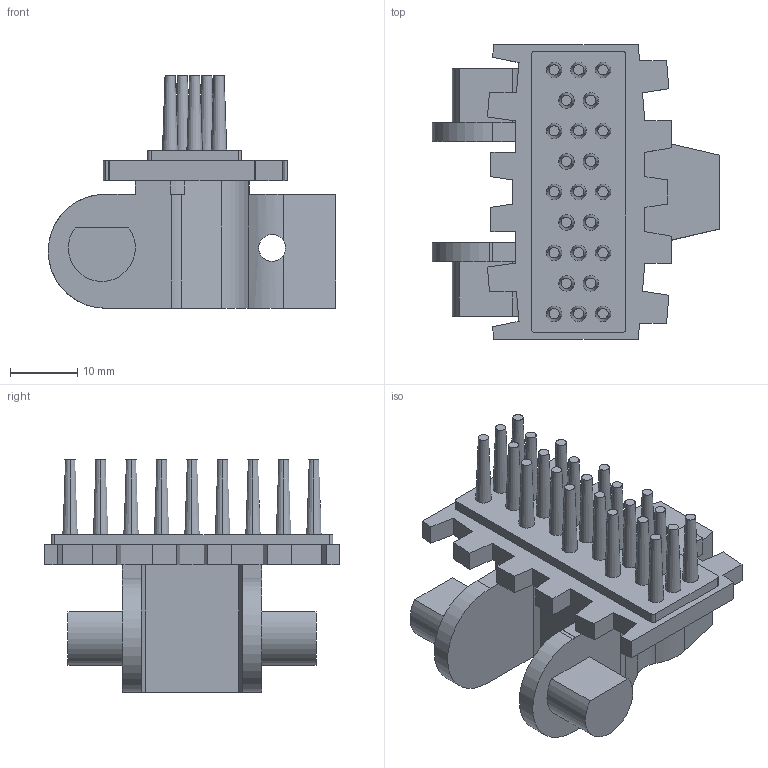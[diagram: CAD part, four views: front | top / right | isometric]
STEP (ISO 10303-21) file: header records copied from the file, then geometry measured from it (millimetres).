
FILE_DESCRIPTION (( 'STEP AP203' ), '1' );
FILE_NAME ('FKWT-5A.STEP', '2012-11-16T09:30:08', ( 'gs' ), ( 'Microsoft' ), 'SwSTEP 2.0', 'SolidWorks 2012', '' );
FILE_SCHEMA (( 'CONFIG_CONTROL_DESIGN' ));
Length unit declared in the file: millimetre
Products named in the file (3): FKWT-5A; 3D-FSTE 5B; XSTL44
Assembly tree (2 placements, depth 2):
  FKWT-5A
    XSTL44
    3D-FSTE 5B
Bounding box: 42.9 x 44 x 34.68 mm (x, y, z)
Volume: 13469 mm3; surface area: 9258.5 mm2
Topology: 2 solids, 2 shells, 170 faces, 426 edges, 284 vertices
Faces by surface type: plane 104, cone 46, cylinder 20
Entity records: 5483 total; most frequent: CARTESIAN_POINT 977, DIRECTION 898, ORIENTED_EDGE 852, EDGE_CURVE 426, AXIS2_PLACEMENT_3D 305, LINE 288, VECTOR 288, VERTEX_POINT 284
